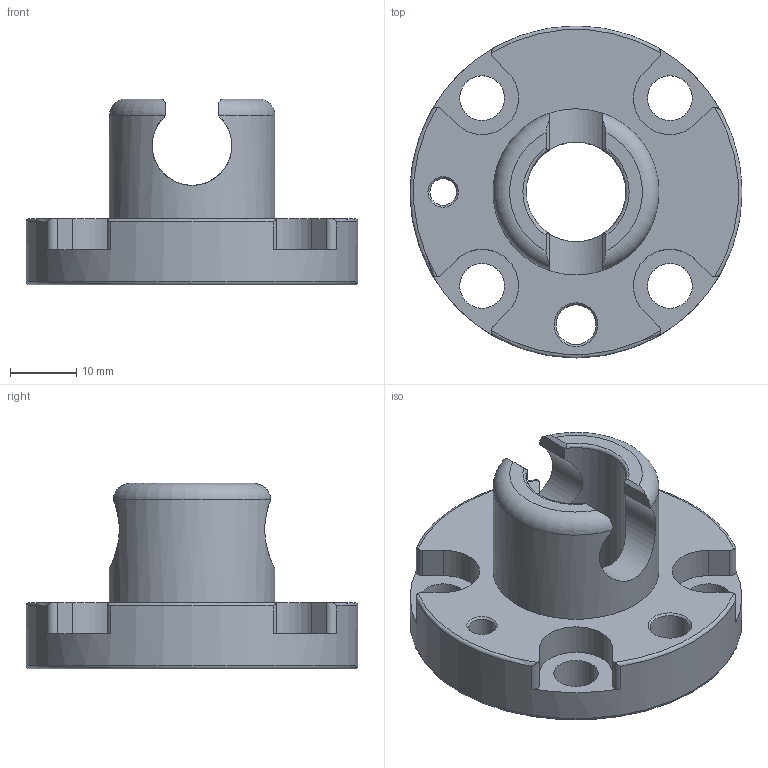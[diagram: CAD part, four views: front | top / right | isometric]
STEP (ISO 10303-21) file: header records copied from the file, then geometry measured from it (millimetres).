
FILE_DESCRIPTION(/* description */ (''),/* implementation_level */ '2;1');
FILE_NAME(/* name */ '\\dc01\daten\CAD\Standard\Daten\3D-Datenbank\SHW\4 - 3D-CAD-Daten SHW\SHW050\G-SHW050-2U.stp',/* time_stamp */ '2020-05-28T13:25:46+02:00',/* author */ ('ysplieth'),/* organization */ (''),/* preprocessor_version */ 'ST-DEVELOPER v17',/* originating_system */ 'Autodesk Inventor 2018',/* authorisation */ '');
FILE_SCHEMA (('AUTOMOTIVE_DESIGN { 1 0 10303 214 3 1 1 }'));
Length unit declared in the file: millimetre
Products named in the file (1): Bauteil2
Bounding box: 50 x 50 x 28 mm (x, y, z)
Volume: 17459.5 mm3; surface area: 8277.4 mm2
Topology: 1 solids, 1 shells, 64 faces, 186 edges, 125 vertices
Faces by surface type: plane 25, cylinder 24, torus 11, cone 4
Full cylindrical faces by diameter (mm): 4 x1, 6 x1, 6.75 x4, 15 x1, 25 x2, 50 x1
Entity records: 2576 total; most frequent: CARTESIAN_POINT 700, DIRECTION 380, ORIENTED_EDGE 372, EDGE_CURVE 186, AXIS2_PLACEMENT_3D 153, VERTEX_POINT 125, CIRCLE 88, EDGE_LOOP 79
